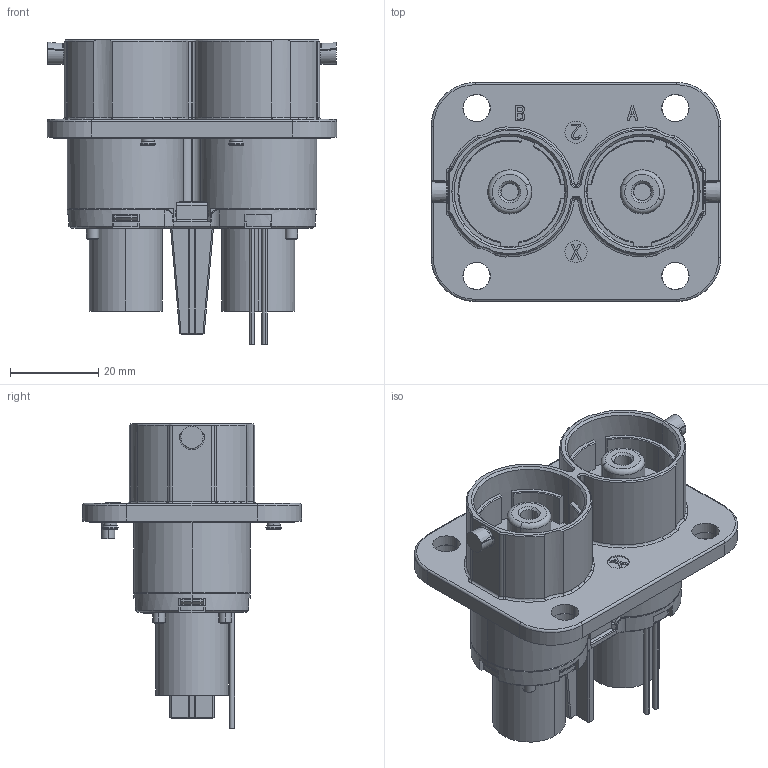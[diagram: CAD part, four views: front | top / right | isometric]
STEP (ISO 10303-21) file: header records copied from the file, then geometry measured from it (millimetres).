
FILE_DESCRIPTION (( 'STEP AP214' ), '1' );
FILE_NAME ('PL082X-301-30.STEP', '2017-07-25T08:32:18', ( '' ), ( '' ), 'SwSTEP 2.0', 'SolidWorks 2015', '' );
FILE_SCHEMA (( 'AUTOMOTIVE_DESIGN' ));
Length unit declared in the file: millimetre
Products named in the file (1): PL082X-301-30
Bounding box: 65.6 x 49.6 x 68.88 mm (x, y, z)
Volume: 51548.6 mm3; surface area: 24351.6 mm2
Topology: 1 solids, 14 shells, 947 faces, 2391 edges, 1502 vertices
Faces by surface type: plane 435, cylinder 249, torus 122, cone 98, bspline 43
Entity records: 41292 total; most frequent: CARTESIAN_POINT 8316, DIRECTION 5003, ORIENTED_EDGE 4782, EDGE_CURVE 2391, AXIS2_PLACEMENT_3D 1891, VERTEX_POINT 1502, LINE 1221, VECTOR 1221
